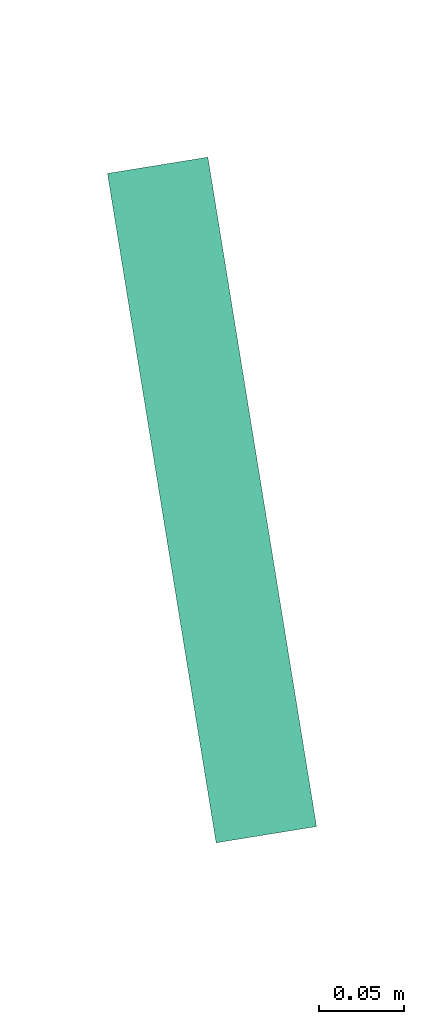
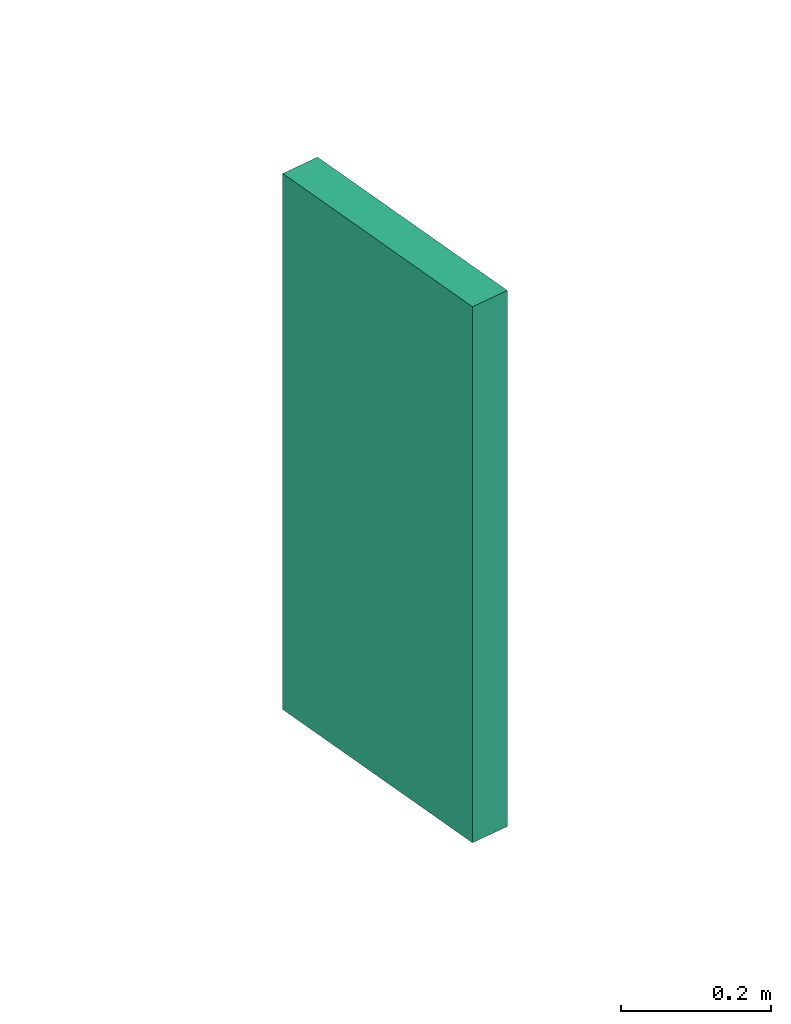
# One storey, incomplete: 1 flow segment.
"""IFC2X3 building model written with IfcOpenShell, lengths in millimetres."""

from ifc_helpers import new_model, entity, si_unit, converted_unit, derived_unit, direction, frame, origin, origin_with_axes, origin_2d_with_axis, place, context, subcontext, project, spatial, rectangle, extrude, type_object, element, save


model = new_model("IFC2X3")

# Units and contexts
model_context = context("Model", 3, precision=0.01, world=origin(), true_north=direction((6.12323399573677e-17, 1.0)))
plan_context = context("Plan", 3, precision=1e-05, world=origin_with_axes())
body_context = subcontext(model_context, "Body", "Model", "MODEL_VIEW")
ifc_project = project(units=[converted_unit("PLANEANGLEUNIT", "DEGREE", entity("IfcPositiveLengthMeasure", 0.0174532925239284), si_unit("PLANEANGLEUNIT", "RADIAN"), dimensions=[0, 0, 0, 0, 0, 0, 0]), si_unit("AREAUNIT", "SQUARE_METRE"), si_unit("LENGTHUNIT", "METRE", prefix="MILLI"), si_unit("MASSUNIT", "GRAM", prefix="KILO"), si_unit("POWERUNIT", "WATT"), si_unit("PRESSUREUNIT", "PASCAL", prefix="KILO"), si_unit("FORCEUNIT", "NEWTON", prefix="KILO"), si_unit("ELECTRICVOLTAGEUNIT", "VOLT"), si_unit("ELECTRICCURRENTUNIT", "AMPERE"), si_unit("THERMODYNAMICTEMPERATUREUNIT", "DEGREE_CELSIUS"), si_unit("TIMEUNIT", "SECOND"), si_unit("VOLUMEUNIT", "CUBIC_METRE"), derived_unit("LINEARVELOCITYUNIT", [(si_unit("LENGTHUNIT", "METRE"), 1), (si_unit("TIMEUNIT", "SECOND"), -1)]), derived_unit("VOLUMETRICFLOWRATEUNIT", [(si_unit("VOLUMEUNIT", "CUBIC_METRE"), 1), (si_unit("TIMEUNIT", "SECOND"), -1)]), derived_unit("THERMALTRANSMITTANCEUNIT", [(si_unit("POWERUNIT", "WATT"), 1), (si_unit("THERMODYNAMICTEMPERATUREUNIT", "KELVIN"), -1), (si_unit("AREAUNIT", "SQUARE_METRE"), -1)]), derived_unit("SOUNDPRESSUREUNIT", [(si_unit("PRESSUREUNIT", "PASCAL"), 1)])], contexts=[model_context, plan_context])

# Site, building, storey
site_placement = place(None, frame((-0.219946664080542, 0.12226179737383, 0.0), z_axis=(0.0, 0.0, 1.0), x_axis=(-0.160236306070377, 0.987078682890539, 0.0)))
site = spatial("IfcSite", under=ifc_project, at=site_placement, Name="Default", CompositionType="ELEMENT")
building_placement = place(site_placement, origin_with_axes())
building = spatial("IfcBuilding", under=site, at=building_placement, CompositionType="ELEMENT")
storey_placement = place(building_placement, frame((0.0, 0.0, 44700.0000000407), z_axis=(0.0, 0.0, 1.0), x_axis=(1.0, 0.0, 0.0)))
storey = spatial("IfcBuildingStorey", under=building, at=storey_placement, Name="Nivå B", CompositionType="ELEMENT", Elevation=44700.0000000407)

# Flow segment
cable_carrier_segment_type = type_object("IfcCableCarrierSegmentType", Name="Cable Tray with Fittings:Kabelbro", PredefinedType="CABLETRAYSEGMENT")
flow_segment_placement = place(storey_placement, origin_with_axes())
element("IfcFlowSegment", 1, at=flow_segment_placement, inside=storey, type_object=cable_carrier_segment_type, Name="Cable Tray with Fittings:Kabelbro", ObjectType="Cable Tray with Fittings:Kabelbro", context=body_context, shape_type="SweptSolid", body=[
    extrude(rectangle(XDim=60.0000000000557, YDim=399.999999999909, at=origin_2d_with_axis()), frame((776972.803972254, -594378.612622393, 8302.52006172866), z_axis=(0.0, 0.0, 1.0), x_axis=(0.0, -1.0, 0.0)), (0.0, 0.0, 1.0), 872.479938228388),
])

save(model, "model.ifc")
